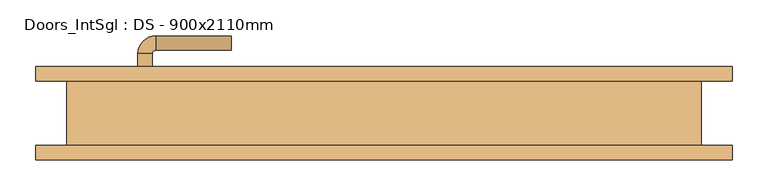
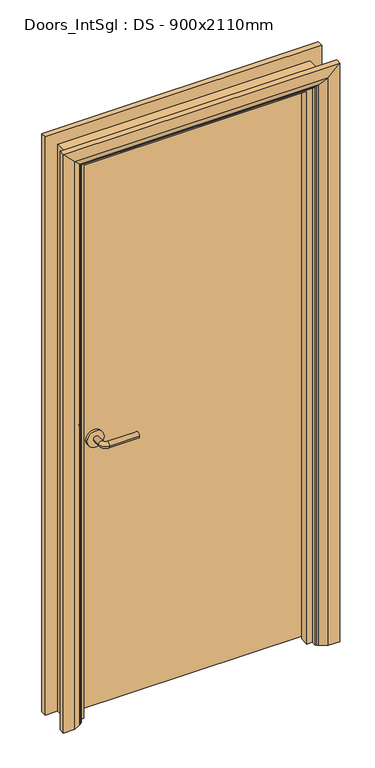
"""IFC4 building model written with IfcOpenShell, lengths in millimetres: door geometry, Doors_IntSgl : DS - 900x2110mm."""

from ifc_helpers import new_model, si_unit, point, frame, frame_2d, origin, place, context, project, spatial, polyline, circle_curve, ellipse_curve, trimmed, segment, composite_curve, outline, extrude, faceted_brep, source, transform, mapped, element, save
from ifc_brep_helpers import plane_surface, cylinder_surface, revolved_surface, advanced_brep


def doors_intsgl_ds_900x2110mm_f6cef332(model_context):
    return source(origin(), model_context, "Body", "SolidModel", [
        advanced_brep(
        [(-343.0, -1.0, 1000.0), (-323.0, -1.0, 1000.0), (-323.0, -31.0, 1000.0), (-343.0, -31.0, 1000.0), (-318.0, -36.0, 1000.0), (-318.0, -56.0, 1000.0), (-213.0, -56.0, 1000.0), (-213.0, -36.0, 1000.0)],
        [
            (0, 1, circle_curve(frame((-333.0, -1.0, 1000.0), z_axis=(0.0, 1.0, 0.0), x_axis=(1.0, 0.0, 0.0)), 10.0)),
            (1, 0, circle_curve(frame((-333.0, -1.0, 1000.0), z_axis=(0.0, 1.0, 0.0), x_axis=(1.0, 0.0, 0.0)), 10.0)),
            (1, 2),
            (2, 3, circle_curve(frame((-333.0, -31.0, 1000.0), z_axis=(0.0, 1.0, 0.0), x_axis=(1.0, 0.0, 0.0)), 10.0)),
            (3, 0),
            (3, 2, circle_curve(frame((-333.0, -31.0, 1000.0), z_axis=(0.0, 1.0, 0.0), x_axis=(1.0, 0.0, 0.0)), 10.0)),
            (4, 5, circle_curve(frame((-318.0, -46.0, 1000.0), z_axis=(-1.0, 0.0, 0.0), x_axis=(0.0, 1.0, 0.0)), 10.0)),
            (5, 3, circle_curve(frame((-318.0, -31.0, 1000.0), z_axis=(0.0, 0.0, -1.0), x_axis=(-1.0, 0.0, 0.0)), 25.0)),
            (2, 4, circle_curve(frame((-318.0, -31.0, 1000.0), z_axis=(0.0, 0.0, 1.0), x_axis=(-1.0, 0.0, 0.0)), 5.0)),
            (5, 4, circle_curve(frame((-318.0, -46.0, 1000.0), z_axis=(-1.0, 0.0, 0.0), x_axis=(0.0, 1.0, 0.0)), 10.0)),
            (6, 7, circle_curve(frame((-213.0, -46.0, 1000.0), z_axis=(1.0, 0.0, 0.0), x_axis=(0.0, 1.0, 0.0)), 10.0)),
            (7, 6, circle_curve(frame((-213.0, -46.0, 1000.0), z_axis=(1.0, 0.0, 0.0), x_axis=(0.0, 1.0, 0.0)), 10.0)),
            (4, 7),
            (6, 5),
        ],
        [
            plane_surface(frame((-333.0, -1.0, 1000.0), z_axis=(0.0, 1.0, 0.0), x_axis=(0.0, 0.0, 1.0))),
            cylinder_surface(frame((-333.0, -1.0, 1000.0), z_axis=(0.0, 1.0, 0.0), x_axis=(1.0, 0.0, 0.0)), 10.0),
            revolved_surface(trimmed(ellipse_curve(frame((-333.0, -31.0, 1000.0), z_axis=(0.0, -1.0, 0.0), x_axis=(1.0, 0.0, 0.0)), 10.0, 10.0), [point((-343.0, -31.0, 1000.0))], [point((-323.0, -31.0, 1000.0))], True, "CARTESIAN"), (-318.0, -31.0, 1000.0), (0.0, 0.0, -1.0)),
            revolved_surface(trimmed(ellipse_curve(frame((-333.0, -31.0, 1000.0), z_axis=(0.0, -1.0, 0.0), x_axis=(1.0, 0.0, 0.0)), 10.0, 10.0), [point((-323.0, -31.0, 1000.0))], [point((-343.0, -31.0, 1000.0))], True, "CARTESIAN"), (-318.0, -31.0, 1000.0), (0.0, 0.0, -1.0)),
            plane_surface(frame((-213.0, -46.0, 1000.0), z_axis=(1.0, 0.0, 0.0), x_axis=(0.0, 0.0, 1.0))),
            cylinder_surface(frame((-318.0, -46.0, 1000.0), z_axis=(-1.0, 0.0, 0.0), x_axis=(0.0, 1.0, 0.0)), 10.0),
        ],
        [
            (0, [[1, 2]]),
            (1, [[3, 4, 5, -2]]),
            (1, [[-5, 6, -3, -1]]),
            (2, [[7, 8, -4, 9]]),
            (3, [[10, -9, -6, -8]]),
            (4, [[11, 12]]),
            (5, [[13, -11, 14, -7]]),
            (5, [[-14, -12, -13, -10]]),
        ],
    ),
        extrude(outline(composite_curve([segment(trimmed(circle_curve(frame_2d((1000.0, -335.5)), 30.0), [point((1000.0, -365.5))], [point((1000.0, -305.5))], False, "CARTESIAN"), True, "CONTINUOUS"), segment(trimmed(circle_curve(frame_2d((1000.0, -335.5)), 30.0), [point((1000.0, -305.5))], [point((1000.0, -365.5))], False, "CARTESIAN"), True, "CONTINUOUS")], self_intersect=False)), frame((0.0, -1.0, 0.0), z_axis=(0.0, 1.0, 0.0), x_axis=(0.0, 0.0, 1.0)), (0.0, 0.0, 1.0), 8.0),
        advanced_brep(
        [(-343.0, 53.0, 1000.0), (-323.0, 53.0, 1000.0), (-343.0, 83.0, 1000.0), (-323.0, 83.0, 1000.0), (-318.0, 88.0, 1000.0), (-318.0, 108.0, 1000.0), (-213.0, 108.0, 1000.0), (-213.0, 88.0, 1000.0)],
        [
            (0, 1, circle_curve(frame((-333.0, 53.0, 1000.0), z_axis=(0.0, -1.0, 0.0), x_axis=(1.0, 0.0, 0.0)), 10.0)),
            (1, 0, circle_curve(frame((-333.0, 53.0, 1000.0), z_axis=(0.0, -1.0, 0.0), x_axis=(1.0, 0.0, 0.0)), 10.0)),
            (0, 2),
            (2, 3, circle_curve(frame((-333.0, 83.0, 1000.0), z_axis=(0.0, -1.0, 0.0), x_axis=(1.0, 0.0, 0.0)), 10.0)),
            (3, 1),
            (3, 2, circle_curve(frame((-333.0, 83.0, 1000.0), z_axis=(0.0, -1.0, 0.0), x_axis=(1.0, 0.0, 0.0)), 10.0)),
            (4, 3, circle_curve(frame((-318.0, 83.0, 1000.0), z_axis=(0.0, 0.0, 1.0), x_axis=(-1.0, 0.0, 0.0)), 5.0)),
            (2, 5, circle_curve(frame((-318.0, 83.0, 1000.0), z_axis=(0.0, 0.0, -1.0), x_axis=(-1.0, 0.0, 0.0)), 25.0)),
            (5, 4, circle_curve(frame((-318.0, 98.0, 1000.0), z_axis=(-1.0, 0.0, 0.0), x_axis=(0.0, -1.0, 0.0)), 10.0)),
            (4, 5, circle_curve(frame((-318.0, 98.0, 1000.0), z_axis=(-1.0, 0.0, 0.0), x_axis=(0.0, -1.0, 0.0)), 10.0)),
            (6, 7, circle_curve(frame((-213.0, 98.0, 1000.0), z_axis=(1.0, 0.0, 0.0), x_axis=(0.0, -1.0, 0.0)), 10.0)),
            (7, 6, circle_curve(frame((-213.0, 98.0, 1000.0), z_axis=(1.0, 0.0, 0.0), x_axis=(0.0, -1.0, 0.0)), 10.0)),
            (5, 6),
            (7, 4),
        ],
        [
            plane_surface(frame((-333.0, 53.0, 1000.0), z_axis=(0.0, -1.0, 0.0), x_axis=(0.0, 0.0, 1.0))),
            cylinder_surface(frame((-333.0, 53.0, 1000.0), z_axis=(0.0, -1.0, 0.0), x_axis=(1.0, 0.0, 0.0)), 10.0),
            revolved_surface(trimmed(ellipse_curve(frame((-333.0, 83.0, 1000.0), z_axis=(0.0, -1.0, 0.0), x_axis=(1.0, 0.0, 0.0)), 10.0, 10.0), [point((-343.0, 83.0, 1000.0))], [point((-323.0, 83.0, 1000.0))], True, "CARTESIAN"), (-318.0, 83.0, 1000.0), (0.0, 0.0, -1.0)),
            revolved_surface(trimmed(ellipse_curve(frame((-333.0, 83.0, 1000.0), z_axis=(0.0, -1.0, 0.0), x_axis=(1.0, 0.0, 0.0)), 10.0, 10.0), [point((-323.0, 83.0, 1000.0))], [point((-343.0, 83.0, 1000.0))], True, "CARTESIAN"), (-318.0, 83.0, 1000.0), (0.0, 0.0, -1.0)),
            plane_surface(frame((-213.0, 98.0, 1000.0), z_axis=(1.0, 0.0, 0.0), x_axis=(0.0, 0.0, 1.0))),
            cylinder_surface(frame((-318.0, 98.0, 1000.0), z_axis=(-1.0, 0.0, 0.0), x_axis=(0.0, -1.0, 0.0)), 10.0),
        ],
        [
            (0, [[1, 2]]),
            (1, [[-1, 3, 4, 5]]),
            (1, [[-2, -5, 6, -3]]),
            (2, [[7, -4, 8, 9]]),
            (3, [[-8, -6, -7, 10]]),
            (4, [[11, 12]]),
            (5, [[-9, 13, -12, 14]]),
            (5, [[-10, -14, -11, -13]]),
        ],
    ),
        extrude(outline(composite_curve([segment(trimmed(circle_curve(frame_2d((1000.0, -335.5)), 30.0), [point((1000.0, -365.5))], [point((1000.0, -305.5))], False, "CARTESIAN"), True, "CONTINUOUS"), segment(trimmed(circle_curve(frame_2d((1000.0, -335.5)), 30.0), [point((1000.0, -305.5))], [point((1000.0, -365.5))], False, "CARTESIAN"), True, "CONTINUOUS")], self_intersect=False)), frame((0.0, 45.0, 0.0), z_axis=(0.0, 1.0, 0.0), x_axis=(0.0, 0.0, 1.0)), (0.0, 0.0, 1.0), 8.0),
        extrude(outline(polyline([(408.0, 7.0), (-408.0, 7.0), (-408.0, 45.0), (408.0, 45.0), (408.0, 7.0)])), frame((0.0, 0.0, 8.0), z_axis=(0.0, 0.0, 1.0), x_axis=(1.0, 0.0, 0.0)), (0.0, 0.0, 1.0), 2060.0),
        advanced_brep(
        [(485.0, 65.0, 0.0), (485.0, 45.0, 0.0), (415.0, 45.0, 0.0), (419.0, 51.0, 0.0), (445.0, 65.0, 0.0), (485.0, 65.0, 2145.0), (485.0, 45.0, 2145.0), (-485.0, 45.0, 2145.0), (-485.0, 45.0, 0.0), (-415.0, 45.0, 0.0), (-415.0, 45.0, 2075.0), (415.0, 45.0, 2075.0), (419.0, 51.0, 2079.0), (445.0, 65.0, 2105.0), (-445.0, 65.0, 2105.0), (-445.0, 65.0, 0.0), (-485.0, 65.0, 0.0), (-485.0, 65.0, 2145.0), (-419.0, 51.0, 0.0), (-419.0, 51.0, 2079.0)],
        [
            (0, 1),
            (1, 2),
            (2, 3, circle_curve(frame((423.0, 44.0, 0.0), z_axis=(0.0, 0.0, -1.0), x_axis=(1.0, 0.0, 0.0)), 8.0622577)),
            (3, 4),
            (4, 0),
            (0, 5),
            (5, 6),
            (6, 1),
            (6, 7),
            (7, 8),
            (8, 9),
            (9, 10),
            (10, 11),
            (11, 2),
            (11, 12, ellipse_curve(frame((423.0, 44.0, 2083.0), z_axis=(0.7071067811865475, 0.0, -0.7071067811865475), x_axis=(-0.7071067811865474, 0.0, -0.7071067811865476)), 11.4017543, 8.0622577)),
            (12, 3),
            (12, 13),
            (13, 4),
            (13, 14),
            (14, 15),
            (15, 16),
            (16, 17),
            (17, 5),
            (7, 17),
            (16, 8),
            (15, 18),
            (18, 9, circle_curve(frame((-423.0, 44.0, 0.0), z_axis=(0.0, 0.0, -1.0), x_axis=(-1.0, 0.0, 0.0)), 8.0622577)),
            (19, 10, ellipse_curve(frame((-423.0, 44.0, 2083.0), z_axis=(-0.7071067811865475, 0.0, -0.7071067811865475), x_axis=(-0.7071067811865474, 0.0, 0.7071067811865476)), 11.4017543, 8.0622577)),
            (18, 19),
            (14, 19),
            (19, 12),
        ],
        [
            plane_surface(frame((415.0, 45.0, 0.0), z_axis=(0.0, 0.0, -1.0), x_axis=(0.0, -1.0, 0.0))),
            plane_surface(frame((485.0, 65.0, 0.0), z_axis=(1.0, 0.0, 0.0), x_axis=(0.0, 0.0, 1.0))),
            plane_surface(frame((485.0, 45.0, 0.0), z_axis=(0.0, -1.0, 0.0), x_axis=(0.0, 0.0, 1.0))),
            cylinder_surface(frame((423.0, 44.0, 0.0), z_axis=(0.0, 0.0, -1.0), x_axis=(1.0, 0.0, 0.0)), 8.0622577),
            plane_surface(frame((419.0, 51.0, 0.0), z_axis=(-0.4740998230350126, 0.880471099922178, 0.0), x_axis=(0.0, 0.0, 1.0))),
            plane_surface(frame((445.0, 65.0, 0.0), z_axis=(0.0, 1.0, 0.0), x_axis=(0.0, 0.0, 1.0))),
            plane_surface(frame((-485.0, 65.0, 2145.0), z_axis=(-1.0, 0.0, 0.0), x_axis=(0.0, 0.0, -1.0))),
            plane_surface(frame((-415.0, 45.0, 0.0), z_axis=(0.0, 0.0, -1.0), x_axis=(0.0, -1.0, 0.0))),
            cylinder_surface(frame((-423.0, 44.0, 2075.0), z_axis=(0.0, 0.0, 1.0), x_axis=(-1.0, 0.0, 0.0)), 8.0622577),
            plane_surface(frame((-419.0, 51.0, 2079.0), z_axis=(0.47409982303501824, 0.8804710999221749, 0.0), x_axis=(0.0, 0.0, -1.0))),
            plane_surface(frame((485.0, 65.0, 2145.0), z_axis=(0.0, 0.0, 1.0), x_axis=(-1.0, 0.0, 0.0))),
            cylinder_surface(frame((415.0, 44.0, 2083.0), z_axis=(1.0, 0.0, 0.0), x_axis=(0.0, 0.0, 1.0)), 8.0622577),
            plane_surface(frame((419.0, 51.0, 2079.0), z_axis=(0.0, 0.8804710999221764, -0.4740998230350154), x_axis=(-1.0, 0.0, 0.0))),
        ],
        [
            (0, [[1, 2, 3, 4, 5]]),
            (1, [[-1, 6, 7, 8]]),
            (2, [[-2, -8, 9, 10, 11, 12, 13, 14]]),
            (3, [[-3, -14, 15, 16]]),
            (4, [[-4, -16, 17, 18]]),
            (5, [[-5, -18, 19, 20, 21, 22, 23, -6]]),
            (6, [[24, -22, 25, -10]]),
            (7, [[-21, 26, 27, -11, -25]]),
            (8, [[28, -12, -27, 29]]),
            (9, [[30, -29, -26, -20]]),
            (10, [[-7, -23, -24, -9]]),
            (11, [[-15, -13, -28, 31]]),
            (12, [[-17, -31, -30, -19]]),
        ],
    ),
        extrude(outline(polyline([(0.0, -410.0), (0.0, -391.0), (2051.0, -391.0), (2051.0, 391.0), (0.0, 391.0), (0.0, 410.0), (2070.0, 410.0), (2070.0, -410.0), (0.0, -410.0)])), frame((0.0, -27.0, 0.0), z_axis=(0.0, 1.0, 0.0), x_axis=(0.0, 0.0, 1.0)), (0.0, 0.0, 1.0), 32.0),
        advanced_brep(
        [(-485.0, -65.0, 0.0), (-485.0, -45.0, 0.0), (-415.0, -45.0, 0.0), (-419.0, -51.0, 0.0), (-445.0, -65.0, 0.0), (-485.0, -65.0, 2145.0), (-485.0, -45.0, 2145.0), (-415.0, -45.0, 2075.0), (-419.0, -51.0, 2079.0), (-445.0, -65.0, 2105.0), (485.0, -65.0, 0.0), (445.0, -65.0, 0.0), (419.0, -51.0, 0.0), (415.0, -45.0, 0.0), (485.0, -45.0, 0.0), (485.0, -65.0, 2145.0), (445.0, -65.0, 2105.0), (419.0, -51.0, 2079.0), (415.0, -45.0, 2075.0), (485.0, -45.0, 2145.0)],
        [
            (0, 1),
            (1, 2),
            (2, 3, circle_curve(frame((-423.0, -44.0, 0.0), z_axis=(0.0, 0.0, -1.0), x_axis=(-1.0, 0.0, 0.0)), 8.0622577)),
            (3, 4),
            (4, 0),
            (0, 5),
            (5, 6),
            (6, 1),
            (6, 7),
            (7, 2),
            (7, 8, ellipse_curve(frame((-423.0, -44.0, 2083.0), z_axis=(-0.7071067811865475, 0.0, -0.7071067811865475), x_axis=(0.7071067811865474, 0.0, -0.7071067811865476)), 11.4017543, 8.0622577)),
            (8, 3),
            (8, 9),
            (9, 4),
            (9, 5),
            (10, 11),
            (11, 12),
            (12, 13, circle_curve(frame((423.0, -44.0, 0.0), z_axis=(0.0, 0.0, -1.0), x_axis=(1.0, 0.0, 0.0)), 8.0622577)),
            (13, 14),
            (14, 10),
            (15, 16),
            (16, 11),
            (10, 15),
            (16, 17),
            (17, 12),
            (17, 18, ellipse_curve(frame((423.0, -44.0, 2083.0), z_axis=(0.7071067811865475, 0.0, -0.7071067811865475), x_axis=(0.7071067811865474, 0.0, 0.7071067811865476)), 11.4017543, 8.0622577)),
            (18, 13),
            (18, 19),
            (19, 14),
            (19, 15),
            (5, 15),
            (19, 6),
            (18, 7),
            (17, 8),
            (16, 9),
        ],
        [
            plane_surface(frame((-415.0, -117.8010989, 0.0), z_axis=(0.0, 0.0, -1.0), x_axis=(1.0, 0.0, 0.0))),
            plane_surface(frame((-485.0, -65.0, 0.0), z_axis=(-1.0, 0.0, 0.0), x_axis=(0.0, 0.0, 1.0))),
            plane_surface(frame((-485.0, -45.0, 0.0), z_axis=(0.0, 1.0, 0.0), x_axis=(0.0, 0.0, 1.0))),
            cylinder_surface(frame((-423.0, -44.0, 0.0), z_axis=(0.0, 0.0, -1.0), x_axis=(-1.0, 0.0, 0.0)), 8.0622577),
            plane_surface(frame((-419.0, -51.0, 0.0), z_axis=(0.4740998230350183, -0.8804710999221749, 0.0), x_axis=(0.0, 0.0, 1.0))),
            plane_surface(frame((-445.0, -65.0, 0.0), z_axis=(0.0, -1.0, 0.0), x_axis=(0.0, 0.0, 1.0))),
            plane_surface(frame((415.0, -117.8010989, 0.0), z_axis=(0.0, 0.0, -1.0), x_axis=(-1.0, 0.0, 0.0))),
            plane_surface(frame((445.0, -65.0, 2105.0), z_axis=(0.0, -1.0, 0.0), x_axis=(0.0, 0.0, -1.0))),
            plane_surface(frame((419.0, -51.0, 2079.0), z_axis=(-0.4740998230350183, -0.8804710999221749, 0.0), x_axis=(0.0, 0.0, -1.0))),
            cylinder_surface(frame((423.0, -44.0, 2075.0), z_axis=(0.0, 0.0, 1.0), x_axis=(1.0, 0.0, 0.0)), 8.0622577),
            plane_surface(frame((485.0, -45.0, 2145.0), z_axis=(0.0, 1.0, 0.0), x_axis=(0.0, 0.0, -1.0))),
            plane_surface(frame((485.0, -65.0, 2145.0), z_axis=(1.0, 0.0, 0.0), x_axis=(0.0, 0.0, -1.0))),
            plane_surface(frame((-485.0, -65.0, 2145.0), z_axis=(0.0, 0.0, 1.0), x_axis=(1.0, 0.0, 0.0))),
            plane_surface(frame((-485.0, -45.0, 2145.0), z_axis=(0.0, 1.0, 0.0), x_axis=(1.0, 0.0, 0.0))),
            cylinder_surface(frame((-415.0, -44.0, 2083.0), z_axis=(-1.0, 0.0, 0.0), x_axis=(0.0, 0.0, 1.0)), 8.0622577),
            plane_surface(frame((-419.0, -51.0, 2079.0), z_axis=(0.0, -0.8804710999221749, -0.4740998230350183), x_axis=(1.0, 0.0, 0.0))),
            plane_surface(frame((-445.0, -65.0, 2105.0), z_axis=(0.0, -1.0, 0.0), x_axis=(1.0, 0.0, 0.0))),
        ],
        [
            (0, [[1, 2, 3, 4, 5]]),
            (1, [[-1, 6, 7, 8]]),
            (2, [[-2, -8, 9, 10]]),
            (3, [[-3, -10, 11, 12]]),
            (4, [[-4, -12, 13, 14]]),
            (5, [[-5, -14, 15, -6]]),
            (6, [[16, 17, 18, 19, 20]]),
            (7, [[21, 22, -16, 23]]),
            (8, [[24, 25, -17, -22]]),
            (9, [[26, 27, -18, -25]]),
            (10, [[28, 29, -19, -27]]),
            (11, [[30, -23, -20, -29]]),
            (12, [[-7, 31, -30, 32]]),
            (13, [[-9, -32, -28, 33]]),
            (14, [[-11, -33, -26, 34]]),
            (15, [[-13, -34, -24, 35]]),
            (16, [[-15, -35, -21, -31]]),
        ],
    ),
        faceted_brep([(-410.0, 45.0, 0.0), (-410.0, -45.0, 0.0), (-442.0, -45.0, 0.0), (-442.0, 45.0, 0.0), (-410.0, 45.0, 2070.0), (-410.0, -45.0, 2070.0), (-442.0, -45.0, 2102.0), (-442.0, 45.0, 2102.0), (410.0, 45.0, 0.0), (442.0, 45.0, 0.0), (442.0, -45.0, 0.0), (410.0, -45.0, 0.0), (410.0, 45.0, 2070.0), (442.0, 45.0, 2102.0), (442.0, -45.0, 2102.0), (410.0, -45.0, 2070.0)], [[[0, 1, 2, 3]], [[1, 0, 4, 5]], [[2, 1, 5, 6]], [[3, 2, 6, 7]], [[0, 3, 7, 4]], [[8, 9, 10, 11]], [[12, 13, 9, 8]], [[13, 14, 10, 9]], [[14, 15, 11, 10]], [[15, 12, 8, 11]], [[5, 4, 12, 15]], [[6, 5, 15, 14]], [[7, 6, 14, 13]], [[4, 7, 13, 12]]]),
    ])


if __name__ == "__main__":
    model = new_model("IFC4")
    model_context = context("Model", 3, world=origin())
    ifc_project = project(units=[si_unit("LENGTHUNIT", "METRE", prefix="MILLI")], contexts=[model_context])
    site = spatial("IfcSite", under=ifc_project)
    building = spatial("IfcBuilding", under=site)
    placement = place(None, origin())
    doors_intsgl_ds_900x2110mm_shape = doors_intsgl_ds_900x2110mm_f6cef332(model_context)
    element("IfcDoor", 1, ObjectType="Doors_IntSgl : DS - 900x2110mm", at=placement, inside=building, context=model_context, shape_type="MappedRepresentation", body=[
        mapped(doors_intsgl_ds_900x2110mm_shape, transform((0.0, 0.0, 0.0), x_axis=(1.0, 0.0, 0.0), y_axis=(0.0, 1.0, 0.0), z_axis=(0.0, 0.0, 1.0))),
    ])
    save(model, "model.ifc")
